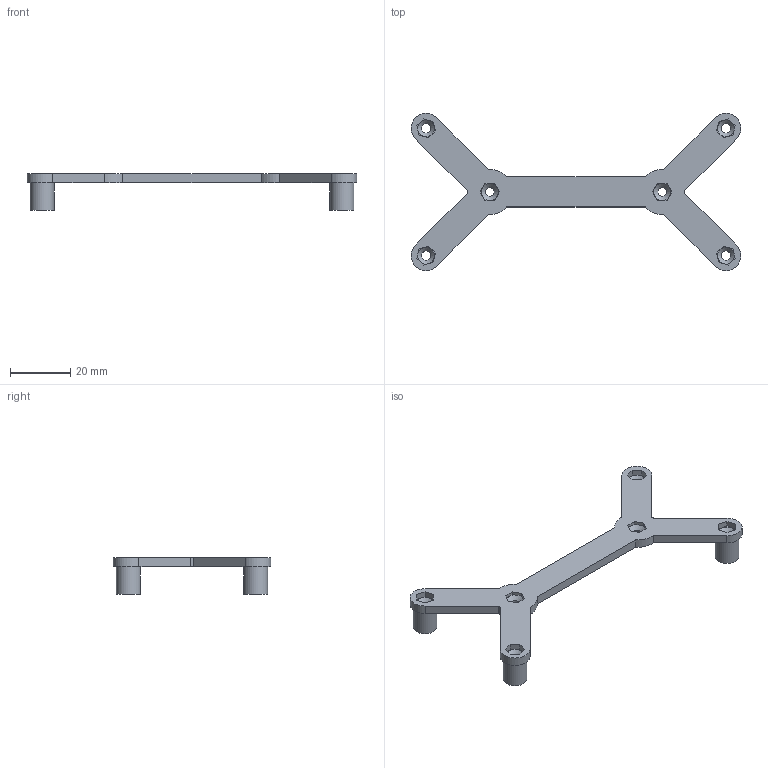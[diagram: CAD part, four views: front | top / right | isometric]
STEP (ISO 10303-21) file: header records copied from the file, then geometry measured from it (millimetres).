
FILE_DESCRIPTION(/* description */ (''),/* implementation_level */ '2;1');
FILE_NAME(/* name */ '6-04-1 Battery holder.step',/* time_stamp */ '2025-05-10T22:36:51+02:00',/* author */ (''),/* organization */ (''),/* preprocessor_version */ 'ST-DEVELOPER v20.1',/* originating_system */ 'Autodesk Translation Framework v14.4.0.0',/* authorisation */ '');
FILE_SCHEMA (('AUTOMOTIVE_DESIGN { 1 0 10303 214 3 1 1 }'));
Length unit declared in the file: millimetre
Products named in the file (1): 6-04-1 Battery holder
Bounding box: 109.89 x 52.39 x 12 mm (x, y, z)
Volume: 6742.2 mm3; surface area: 6296.6 mm2
Topology: 1 solids, 1 shells, 114 faces, 294 edges, 186 vertices
Faces by surface type: plane 88, cylinder 20, cone 6
Full cylindrical faces by diameter (mm): 3 x2, 3.2 x4, 8 x4
Entity records: 3492 total; most frequent: CARTESIAN_POINT 619, DIRECTION 594, ORIENTED_EDGE 588, EDGE_CURVE 294, LINE 200, VECTOR 200, AXIS2_PLACEMENT_3D 197, VERTEX_POINT 186
